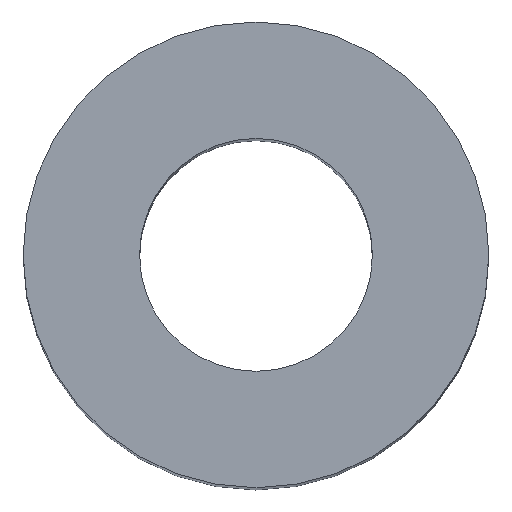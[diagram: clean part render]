
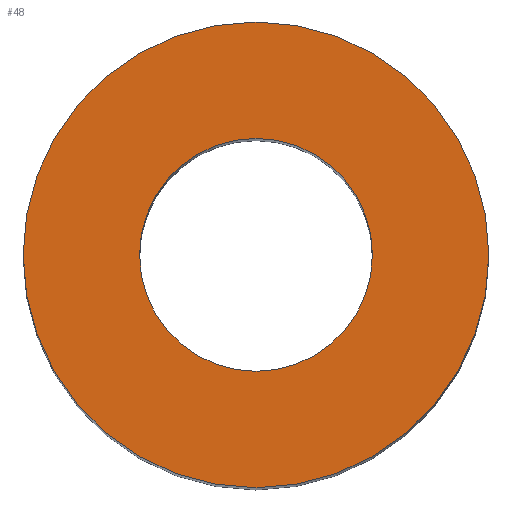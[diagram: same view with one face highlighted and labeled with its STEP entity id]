
A CAD part, top view. The second image highlights one B-rep face of the part: STEP entity #48.
In plain terms, the highlighted planar face has unit normal (0, 0, 1).
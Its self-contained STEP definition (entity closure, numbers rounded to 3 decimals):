
#17 = DIRECTION ( 'NONE',  ( 0., 0., 1. ) ) ;
#20 = VERTEX_POINT ( 'NONE', #164 ) ;
#21 = DIRECTION ( 'NONE',  ( 1., 0., 0. ) ) ;
#26 = EDGE_CURVE ( 'NONE', #150, #205, #114, .T. ) ;
#27 = CARTESIAN_POINT ( 'NONE',  ( 12.5, 0., 139. ) ) ;
#29 = FACE_OUTER_BOUND ( 'NONE', #162, .T. ) ;
#30 = DIRECTION ( 'NONE',  ( 1., 0., 0. ) ) ;
#34 = EDGE_CURVE ( 'NONE', #20, #90, #39, .T. ) ;
#39 = CIRCLE ( 'NONE', #89, 25. ) ;
#43 = CARTESIAN_POINT ( 'NONE',  ( 0., 0., 139. ) ) ;
#48 = ADVANCED_FACE ( 'NONE', ( #29, #113 ), #197, .T. ) ;
#64 = DIRECTION ( 'NONE',  ( 0., 0., 1. ) ) ;
#68 = ORIENTED_EDGE ( 'NONE', *, *, #34, .T. ) ;
#69 = CARTESIAN_POINT ( 'NONE',  ( 0., 0., 139. ) ) ;
#72 = DIRECTION ( 'NONE',  ( 0., 0., 1. ) ) ;
#80 = AXIS2_PLACEMENT_3D ( 'NONE', #91, #159, #167 ) ;
#89 = AXIS2_PLACEMENT_3D ( 'NONE', #131, #17, #30 ) ;
#90 = VERTEX_POINT ( 'NONE', #172 ) ;
#91 = CARTESIAN_POINT ( 'NONE',  ( 0., 0., 139. ) ) ;
#95 = EDGE_LOOP ( 'NONE', ( #110, #173 ) ) ;
#101 = AXIS2_PLACEMENT_3D ( 'NONE', #43, #72, #21 ) ;
#103 = CARTESIAN_POINT ( 'NONE',  ( -12.5, 0., 139. ) ) ;
#104 = CARTESIAN_POINT ( 'NONE',  ( 0., 0., 139. ) ) ;
#109 = DIRECTION ( 'NONE',  ( 0., 0., 1. ) ) ;
#110 = ORIENTED_EDGE ( 'NONE', *, *, #26, .F. ) ;
#113 = FACE_BOUND ( 'NONE', #95, .T. ) ;
#114 = CIRCLE ( 'NONE', #101, 12.5 ) ;
#130 = AXIS2_PLACEMENT_3D ( 'NONE', #104, #109, #214 ) ;
#131 = CARTESIAN_POINT ( 'NONE',  ( 0., 0., 139. ) ) ;
#132 = DIRECTION ( 'NONE',  ( 1., 0., 0. ) ) ;
#136 = EDGE_CURVE ( 'NONE', #205, #150, #158, .T. ) ;
#150 = VERTEX_POINT ( 'NONE', #103 ) ;
#153 = ORIENTED_EDGE ( 'NONE', *, *, #210, .T. ) ;
#154 = AXIS2_PLACEMENT_3D ( 'NONE', #69, #64, #132 ) ;
#158 = CIRCLE ( 'NONE', #80, 12.5 ) ;
#159 = DIRECTION ( 'NONE',  ( 0., 0., 1. ) ) ;
#162 = EDGE_LOOP ( 'NONE', ( #68, #153 ) ) ;
#164 = CARTESIAN_POINT ( 'NONE',  ( -25., 0., 139. ) ) ;
#167 = DIRECTION ( 'NONE',  ( 1., 0., 0. ) ) ;
#172 = CARTESIAN_POINT ( 'NONE',  ( 25., 0., 139. ) ) ;
#173 = ORIENTED_EDGE ( 'NONE', *, *, #136, .F. ) ;
#197 = PLANE ( 'NONE',  #130 ) ;
#204 = CIRCLE ( 'NONE', #154, 25. ) ;
#205 = VERTEX_POINT ( 'NONE', #27 ) ;
#210 = EDGE_CURVE ( 'NONE', #90, #20, #204, .T. ) ;
#214 = DIRECTION ( 'NONE',  ( 1., 0., 0. ) ) ;
